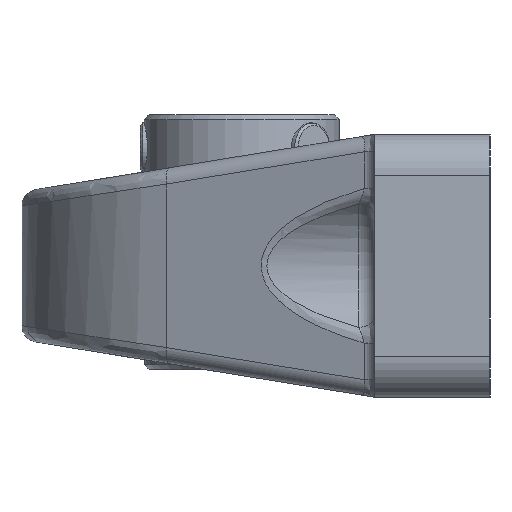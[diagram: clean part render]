
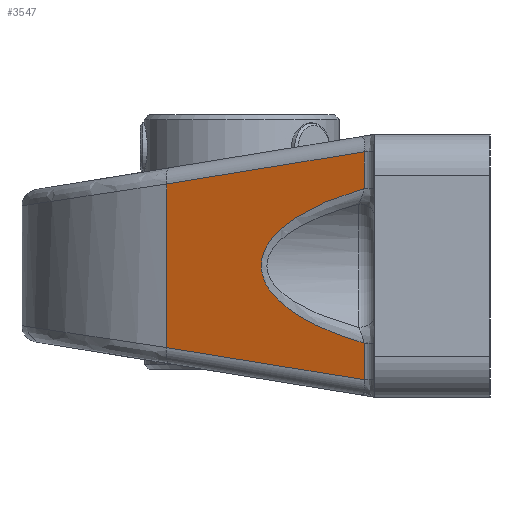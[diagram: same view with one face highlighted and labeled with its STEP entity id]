
A CAD part, left-side view. The second image highlights one B-rep face of the part: STEP entity #3547.
In plain terms, the highlighted planar face has unit normal (-0.94, 0.342, 0).
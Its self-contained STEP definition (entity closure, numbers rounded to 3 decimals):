
#134=PLANE('',#3866);
#408=FACE_OUTER_BOUND('',#609,.T.);
#609=EDGE_LOOP('',(#2474,#2475,#2476,#2477,#2478,#2479));
#828=ELLIPSE('',#3862,35.086,12.);
#1180=LINE('',#5904,#1294);
#1182=LINE('',#6046,#1296);
#1183=LINE('',#6079,#1297);
#1185=LINE('',#6085,#1299);
#1186=LINE('',#6086,#1300);
#1294=VECTOR('',#4458,10.);
#1296=VECTOR('',#4482,10.);
#1297=VECTOR('',#4489,10.);
#1299=VECTOR('',#4495,10.);
#1300=VECTOR('',#4496,10.);
#1428=VERTEX_POINT('',#5864);
#1432=VERTEX_POINT('',#5900);
#1437=VERTEX_POINT('',#5965);
#1442=VERTEX_POINT('',#6039);
#1444=VERTEX_POINT('',#6078);
#1446=VERTEX_POINT('',#6084);
#1855=EDGE_CURVE('',#1428,#1432,#1180,.T.);
#1870=EDGE_CURVE('',#1442,#1437,#1182,.T.);
#1871=EDGE_CURVE('',#1437,#1428,#828,.T.);
#1873=EDGE_CURVE('',#1432,#1444,#1183,.T.);
#1876=EDGE_CURVE('',#1446,#1442,#1185,.T.);
#1877=EDGE_CURVE('',#1444,#1446,#1186,.T.);
#2474=ORIENTED_EDGE('',*,*,#1855,.F.);
#2475=ORIENTED_EDGE('',*,*,#1871,.F.);
#2476=ORIENTED_EDGE('',*,*,#1870,.F.);
#2477=ORIENTED_EDGE('',*,*,#1876,.F.);
#2478=ORIENTED_EDGE('',*,*,#1877,.F.);
#2479=ORIENTED_EDGE('',*,*,#1873,.F.);
#3547=ADVANCED_FACE('',(#408),#134,.T.);
#3862=AXIS2_PLACEMENT_3D('',#6075,#4483,#4484);
#3866=AXIS2_PLACEMENT_3D('',#6083,#4493,#4494);
#4458=DIRECTION('',(0.,0.,-1.));
#4482=DIRECTION('',(0.,0.,-1.));
#4483=DIRECTION('center_axis',(-0.94,0.342,0.));
#4484=DIRECTION('ref_axis',(0.342,0.94,0.));
#4489=DIRECTION('',(0.338,0.929,0.151));
#4493=DIRECTION('center_axis',(-0.94,0.342,0.));
#4494=DIRECTION('ref_axis',(0.342,0.94,0.));
#4495=DIRECTION('',(-0.338,-0.929,0.151));
#4496=DIRECTION('',(0.,0.,1.));
#5864=CARTESIAN_POINT('',(-33.937,15.316,-9.414));
#5900=CARTESIAN_POINT('',(-33.937,15.316,-13.871));
#5904=CARTESIAN_POINT('',(-33.937,15.316,0.));
#5965=CARTESIAN_POINT('',(-33.937,15.316,9.414));
#6039=CARTESIAN_POINT('',(-33.937,15.316,13.871));
#6046=CARTESIAN_POINT('',(-33.937,15.316,0.));
#6075=CARTESIAN_POINT('Origin',(-41.379,-5.131,0.));
#6078=CARTESIAN_POINT('',(-25.184,39.366,-9.956));
#6079=CARTESIAN_POINT('',(-25.207,39.301,-9.966));
#6083=CARTESIAN_POINT('Origin',(-34.416,14.,0.));
#6084=CARTESIAN_POINT('',(-25.184,39.366,9.956));
#6085=CARTESIAN_POINT('',(-32.138,20.259,13.066));
#6086=CARTESIAN_POINT('',(-25.184,39.366,0.));
